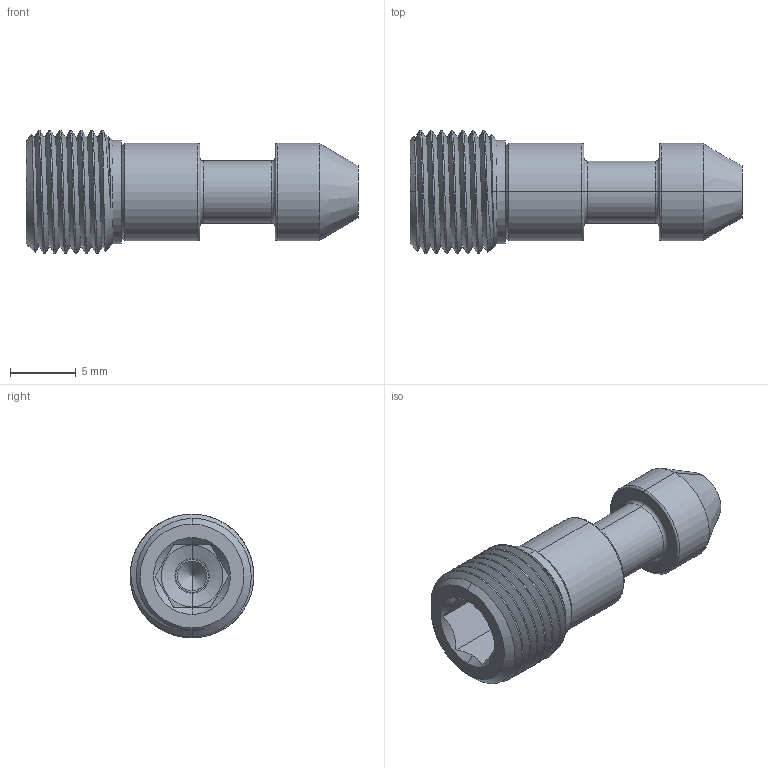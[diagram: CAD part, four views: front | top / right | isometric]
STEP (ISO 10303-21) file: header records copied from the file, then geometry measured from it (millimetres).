
FILE_DESCRIPTION (( 'STEP AP214' ), '1' );
FILE_NAME ('PLAA3724220A_A.STEP', '2021-04-06T19:07:17', ( '' ), ( '' ), 'SwSTEP 2.0', 'SolidWorks 2019', '' );
FILE_SCHEMA (( 'AUTOMOTIVE_DESIGN' ));
Length unit declared in the file: inch
Products named in the file (3): PLAD0100350_A; PLAD0100200_E; PLAA3724220A_A
Assembly tree (2 placements, depth 2):
  PLAA3724220A_A
    PLAD0100350_A
    PLAD0100200_E
Bounding box: 25.22 x 9.39 x 9.4 mm (x, y, z)
Volume: 888 mm3; surface area: 1020.1 mm2
Topology: 2 solids, 2 shells, 79 faces, 183 edges, 112 vertices
Faces by surface type: cylinder 32, cone 20, plane 15, torus 10, bspline 2
Entity records: 3401 total; most frequent: CARTESIAN_POINT 1562, DIRECTION 369, ORIENTED_EDGE 362, EDGE_CURVE 181, AXIS2_PLACEMENT_3D 153, VERTEX_POINT 112, EDGE_LOOP 87, FACE_OUTER_BOUND 79
